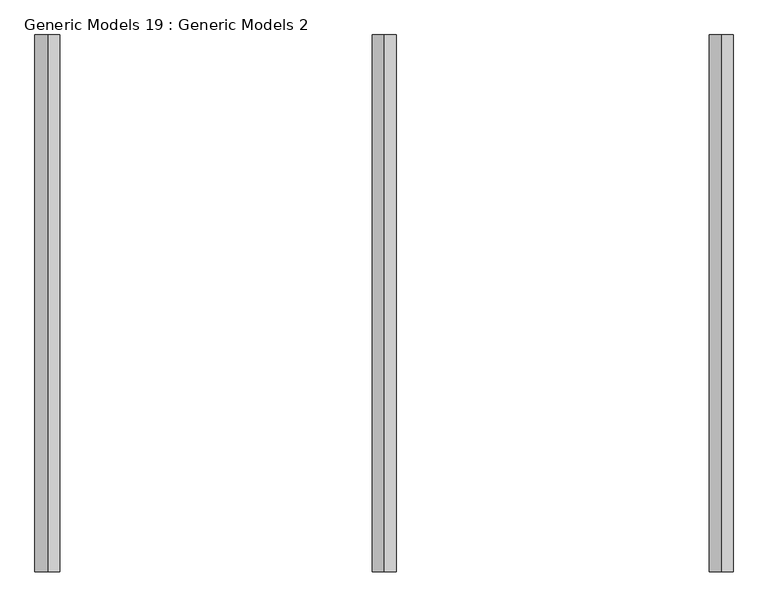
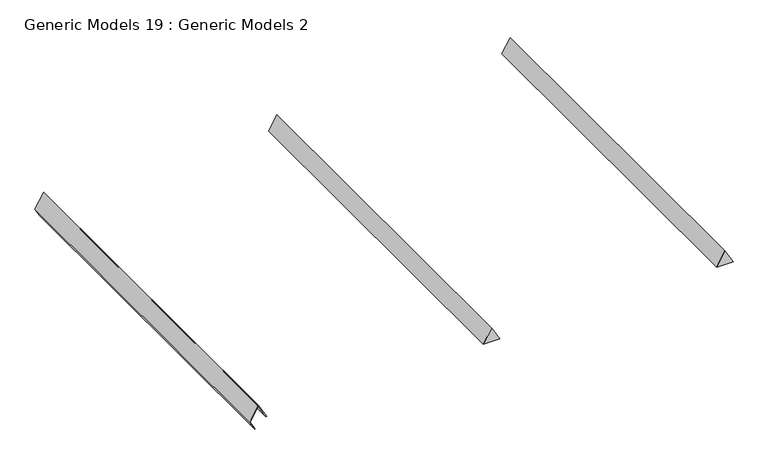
"""IFC4 building model written with IfcOpenShell, lengths in millimetres: proxy geometry, Generic Models 19 : Generic Models 2."""

import ifcopenshell
import ifcopenshell.guid

model = None  # the IFC model being written
_history = None  # IfcOwnerHistory: only IFC2X3 demands one
_inside = {}  # id of a spatial element -> (the spatial element, [elements in it])
_under = {}  # id of a project, library or spatial element -> (it, [spatial elements below it])
_declared = {}  # id of a project -> (the project, [libraries it declares])
_typed = {}  # id of a type object -> (the type object, [elements of that type])
_made_of = {}  # id of a material, layer set ... -> (it, [elements and type objects made of it])


def new_model(schema):
    """Start an empty IFC model of exactly this schema.

    Asked for "IFC4X3", IfcOpenShell would pick the latest addendum, in which some entities
    have other attributes; the version numbers below select the first issue.
    IFC2X3 requires an IfcOwnerHistory on every rooted entity: one is made here for all.
    """
    global model, _history
    if schema == "IFC4X3":
        model = ifcopenshell.file(schema_version=(4, 3, 0, 0))
    else:
        model = ifcopenshell.file(schema=schema)
    _inside.clear()
    _under.clear()
    _declared.clear()
    _typed.clear()
    _made_of.clear()
    _history = None
    if model.schema == "IFC2X3":
        org = make("IfcOrganization", Name="unknown")
        user = make(
            "IfcPersonAndOrganization",
            ThePerson=make("IfcPerson", FamilyName="unknown"),
            TheOrganization=org,
        )
        app = make(
            "IfcApplication",
            ApplicationDeveloper=org,
            Version="unknown",
            ApplicationFullName="unknown",
            ApplicationIdentifier="unknown",
        )
        _history = make(
            "IfcOwnerHistory",
            OwningUser=user,
            OwningApplication=app,
            ChangeAction="ADDED",
            CreationDate=0,
        )
    return model


def make(cls, **values):
    """One entity of the class cls with the attributes given. An attribute that is None is left unset."""
    return model.create_entity(
        cls, **{name: value for name, value in values.items() if value is not None}
    )


def rooted(cls, **values):
    """An entity with a GlobalId (a new one), such as an element, a storey or a relation."""
    return make(cls, GlobalId=ifcopenshell.guid.new(), OwnerHistory=_history, **values)


def si_unit(unit_type, name, prefix=None):
    """IfcSIUnit, for example si_unit("LENGTHUNIT", "METRE", prefix="MILLI")."""
    return make("IfcSIUnit", UnitType=unit_type, Prefix=prefix, Name=name)


def assignment(units):
    """IfcUnitAssignment: the units of a project."""
    return None if units is None else make("IfcUnitAssignment", Units=units)


def point(xyz):
    """IfcCartesianPoint."""
    return None if xyz is None else make("IfcCartesianPoint", Coordinates=xyz)


def direction(xyz):
    """IfcDirection."""
    return None if xyz is None else make("IfcDirection", DirectionRatios=xyz)


def frame(location, z_axis=None, x_axis=None):
    """IfcAxis2Placement3D, a coordinate frame: its origin and axes. An axis left out is left unset."""
    return make(
        "IfcAxis2Placement3D",
        Location=point(location),
        Axis=direction(z_axis),
        RefDirection=direction(x_axis),
    )


def origin():
    """The frame at (0, 0, 0) with its axes left unset."""
    return frame((0.0, 0.0, 0.0))


def place(relative_to, where):
    """IfcLocalPlacement: puts the frame where relative to a parent placement (None: the world)."""
    return make(
        "IfcLocalPlacement", PlacementRelTo=relative_to, RelativePlacement=where
    )


def context(
    kind, dimensions, precision=None, world=None, true_north=None, identifier=None
):
    """IfcGeometricRepresentationContext, for example the 3D "Model" context."""
    return make(
        "IfcGeometricRepresentationContext",
        ContextIdentifier=identifier,
        ContextType=kind,
        CoordinateSpaceDimension=dimensions,
        Precision=precision,
        WorldCoordinateSystem=world,
        TrueNorth=true_north,
    )


def project(units=None, contexts=None):
    """IfcProject with its units and contexts."""
    return rooted(
        "IfcProject",
        Name="project",
        RepresentationContexts=contexts,
        UnitsInContext=assignment(units),
    )


def spatial(cls, under=None, at=None, **own):
    """A site, building, storey or space (cls), placed at a placement, below another one or the project."""
    s = rooted(cls, ObjectPlacement=at, **own)
    if under is not None:
        _under.setdefault(under.id(), (under, []))[1].append(s)
    return s


def polyline(points):
    """IfcPolyline through the points."""
    return make("IfcPolyline", Points=[point(p) for p in points])


def outline(outer, holes=None, kind="AREA"):
    """IfcArbitraryClosedProfileDef: a profile drawn as a closed curve; with holes, ...WithVoids."""
    if holes is None:
        return make("IfcArbitraryClosedProfileDef", ProfileType=kind, OuterCurve=outer)
    return make(
        "IfcArbitraryProfileDefWithVoids",
        ProfileType=kind,
        OuterCurve=outer,
        InnerCurves=holes,
    )


def extrude(swept, where, along, depth):
    """IfcExtrudedAreaSolid: the profile swept, set in the frame where, extruded along a direction by depth."""
    return make(
        "IfcExtrudedAreaSolid",
        SweptArea=swept,
        Position=where,
        ExtrudedDirection=direction(along),
        Depth=depth,
    )


def shape(context_of_items, identifier, shape_type, items):
    """IfcShapeRepresentation: the items that make up one representation, for example the "Body"."""
    return make(
        "IfcShapeRepresentation",
        ContextOfItems=context_of_items,
        RepresentationIdentifier=identifier,
        RepresentationType=shape_type,
        Items=items,
    )


def source(mapping_origin, context_of_items, identifier, shape_type, items):
    """IfcRepresentationMap: a shape defined once, which mapped items show again and again."""
    return make(
        "IfcRepresentationMap",
        MappingOrigin=mapping_origin,
        MappedRepresentation=shape(context_of_items, identifier, shape_type, items),
    )


def transform(
    local_origin,
    x_axis=None,
    y_axis=None,
    z_axis=None,
    scale=None,
    scale2=None,
    scale3=None,
    uniform=True,
):
    """IfcCartesianTransformationOperator3D, or its non-uniform kind. x_axis, y_axis, z_axis: its Axis1, 2, 3."""
    if uniform:
        return make(
            "IfcCartesianTransformationOperator3D",
            Axis1=direction(x_axis),
            Axis2=direction(y_axis),
            LocalOrigin=point(local_origin),
            Scale=scale,
            Axis3=direction(z_axis),
        )
    return make(
        "IfcCartesianTransformationOperator3DnonUniform",
        Axis1=direction(x_axis),
        Axis2=direction(y_axis),
        LocalOrigin=point(local_origin),
        Scale=scale,
        Axis3=direction(z_axis),
        Scale2=scale2,
        Scale3=scale3,
    )


def mapped(mapping_source, mapping_target):
    """IfcMappedItem: shows the shape of a source again, moved by a transform."""
    return make(
        "IfcMappedItem", MappingSource=mapping_source, MappingTarget=mapping_target
    )


def made_of(thing, what):
    """Note that an element or type object is made of a material, layer set ...; save() writes the relation."""
    if what is not None:
        _made_of.setdefault(what.id(), (what, []))[1].append(thing)
    return thing


def element(
    cls,
    number,
    at=None,
    inside=None,
    cuts=None,
    type_object=None,
    material=None,
    context=None,
    identifier="Body",
    shape_type=None,
    held_by="IfcProductDefinitionShape",
    body=None,
    shapes=None,
    **own,
):
    """One element of the class cls, such as IfcWall. Its Tag is "e" and its number.

    at: its placement. inside: the storey or other place that contains it. cuts: it is an
    opening in that element (IfcRelVoidsElement). A single representation is given by context,
    identifier, shape_type and body (its items); several are given by shapes. held_by: the class
    of the entity that holds the representations. save() writes the other relations.
    """
    e = rooted(cls, Tag="e%d" % number, ObjectPlacement=at, **own)
    if body is not None:
        shapes = [shape(context, identifier, shape_type, body)]
    if shapes is not None:
        e.Representation = make(held_by, Representations=shapes)
    if inside is not None:
        _inside.setdefault(inside.id(), (inside, []))[1].append(e)
    if cuts is not None:
        rooted(
            "IfcRelVoidsElement", RelatingBuildingElement=cuts, RelatedOpeningElement=e
        )
    if type_object is not None:
        _typed.setdefault(type_object.id(), (type_object, []))[1].append(e)
    return made_of(e, material)


def aggregate(whole, parts):
    """IfcRelAggregates: a whole, such as a stair, and the parts it consists of."""
    return rooted("IfcRelAggregates", RelatingObject=whole, RelatedObjects=parts)


def save(model, path):
    """Write the relations noted so far, then the file.

    IfcRelAggregates (storeys below a building ...), IfcRelContainedInSpatialStructure (elements
    in a storey), IfcRelDefinesByType, IfcRelAssociatesMaterial and IfcRelDeclares: one each for
    every whole, place, type object, material and project.
    """
    for whole, parts in _under.values():
        aggregate(whole, parts)
    for where, things in _inside.values():
        rooted(
            "IfcRelContainedInSpatialStructure",
            RelatedElements=things,
            RelatingStructure=where,
        )
    for kind, things in _typed.values():
        rooted("IfcRelDefinesByType", RelatedObjects=things, RelatingType=kind)
    for what, things in _made_of.values():
        rooted("IfcRelAssociatesMaterial", RelatedObjects=things, RelatingMaterial=what)
    for by, libraries in _declared.values():
        rooted("IfcRelDeclares", RelatingContext=by, RelatedDefinitions=libraries)
    model.write(path)


def generic_models_19_generic_models_2_e4446f8d(model_context):
    return source(origin(), model_context, "Body", "SweptSolid", [
        extrude(outline(polyline([(52051.2410001, 5686.0331305), (53529.1702887, 4832.7502578), (52051.2410001, 3979.4673852), (52051.2410001, 5686.0331305)])), frame((0.0, -38737.3261394, 0.0), z_axis=(0.0, 1.0, 0.0), x_axis=(0.0, 0.0, 1.0)), (0.0, 0.0, 1.0), 38253.9615197),
        extrude(outline(polyline([(52051.2410001, -18313.9695009), (53529.1673351, -19167.2506683), (52051.2410001, -20020.5318357), (52051.2410001, -18313.9695009)])), frame((0.0, -38737.3261394, 0.0), z_axis=(0.0, 1.0, 0.0), x_axis=(0.0, 0.0, 1.0)), (0.0, 0.0, 1.0), 38253.9615197),
        extrude(outline(polyline([(51078.9841278, -43550.5353134), (51199.0121343, -43550.5353134), (51972.0906749, -43996.8563536), (53409.3414926, -43167.03797), (52038.3060278, -42375.4702753), (52031.9421055, -42302.6069598), (53529.1558345, -43167.0458325), (51972.101558, -44066.0345456), (51078.9841278, -43550.5353134)])), frame((0.0, -38737.3261394, 0.0), z_axis=(0.0, 1.0, 0.0), x_axis=(0.0, 0.0, 1.0)), (0.0, 0.0, 1.0), 38253.9615197),
    ])


if __name__ == "__main__":
    model = new_model("IFC4")
    model_context = context("Model", 3, world=origin())
    ifc_project = project(units=[si_unit("LENGTHUNIT", "METRE", prefix="MILLI")], contexts=[model_context])
    site = spatial("IfcSite", under=ifc_project)
    building = spatial("IfcBuilding", under=site)
    placement = place(None, origin())
    generic_models_19_generic_models_2_shape = generic_models_19_generic_models_2_e4446f8d(model_context)
    element("IfcBuildingElementProxy", 1, Name="Generic Models 19 : Generic Models 2", ObjectType="Generic Models 19 : Generic Models 2", at=placement, inside=building, context=model_context, shape_type="MappedRepresentation", body=[
        mapped(generic_models_19_generic_models_2_shape, transform((0.0, 0.0, 0.0), x_axis=(1.0, 0.0, 0.0), y_axis=(0.0, 1.0, 0.0), z_axis=(0.0, 0.0, 1.0))),
    ])
    save(model, "model.ifc")
